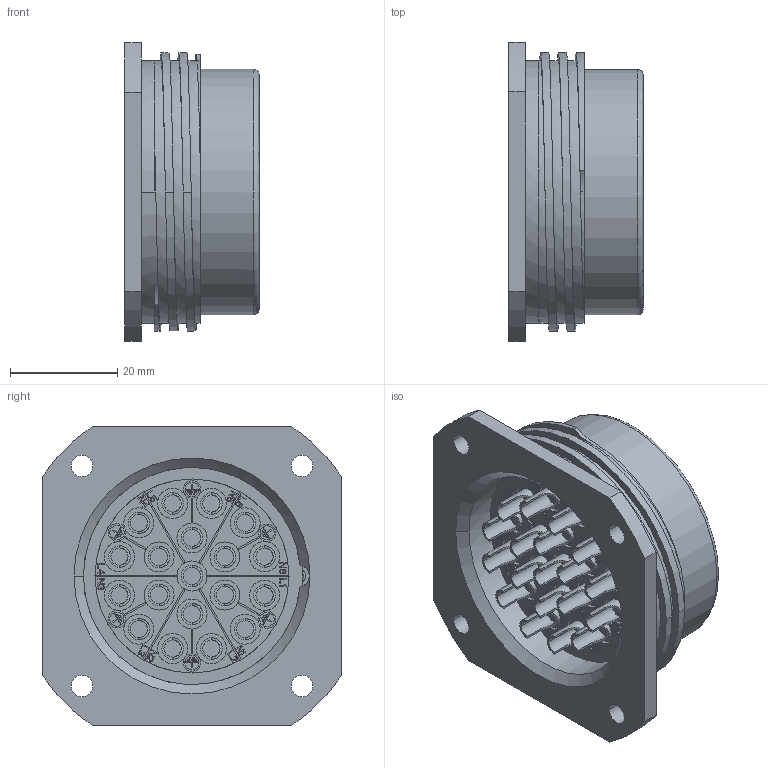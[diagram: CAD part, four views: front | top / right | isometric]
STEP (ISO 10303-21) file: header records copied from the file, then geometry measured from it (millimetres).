
FILE_DESCRIPTION((''),'2;1');
FILE_NAME('GUDINGMUDUANCAZUO_ASM','2020-06-05T',('Administrator'),(''),'CREO PARAMETRIC BY PTC INC, 2016130','CREO PARAMETRIC BY PTC INC, 2016130','');
FILE_SCHEMA(('CONFIG_CONTROL_DESIGN'));
Products named in the file (1): GUDINGMUDUANCAZUO_ASM
Bounding box: 25 x 55.7 x 55.7 mm (x, y, z)
Volume: 38349 mm3; surface area: 16755.1 mm2
Topology: 1 solids, 13 shells, 1965 faces, 5277 edges, 3530 vertices
Faces by surface type: plane 1583, cylinder 334, cone 24, torus 21, bspline 3
Entity records: 63042 total; most frequent: CARTESIAN_POINT 13043, ORIENTED_EDGE 10554, DIRECTION 9882, EDGE_CURVE 5277, VECTOR 4312, LINE 4312, VERTEX_POINT 3530, AXIS2_PLACEMENT_3D 2785
